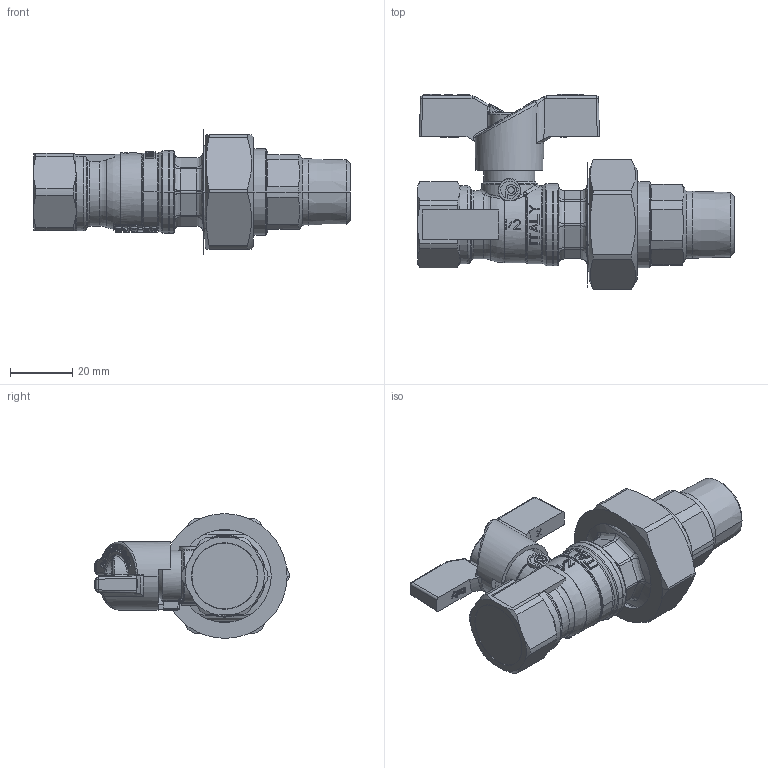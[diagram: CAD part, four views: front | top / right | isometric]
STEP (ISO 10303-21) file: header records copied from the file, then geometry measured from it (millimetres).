
FILE_DESCRIPTION((''),'2;1');
FILE_NAME('T204FU_1-2_MALE_UNION_ASM','2022-05-19T17:07:29',('Sergio.Dandrea'),(''),'CREO PARAMETRIC BY PTC INC, 2021164','CREO PARAMETRIC BY PTC INC, 2021164','');
FILE_SCHEMA(('CONFIG_CONTROL_DESIGN'));
Products named in the file (15): 11104; 11107; 12079; 11108; 11109; 12070; 87057; OR_107_AF0; OR_107_AF1; ASTA_T203FF_12_ASM; 89176; 88402; SEDE_PTFE_F12; 87131; T204FU_1-2_MALE_UNION_ASM
Assembly tree (15 placements, depth 3):
  T204FU_1-2_MALE_UNION_ASM
    11104
    11107
    12079
    11108
    11109
    12070
    ASTA_T203FF_12_ASM
      87057
      OR_107_AF0
      OR_107_AF1
    89176
    88402
    SEDE_PTFE_F12  x2
    87131
Bounding box: 101.9 x 62.9 x 40.14 mm (x, y, z)
Volume: 47848.7 mm3; surface area: 40024.4 mm2
Topology: 14 solids, 23 shells, 1778 faces, 4637 edges, 2983 vertices
Faces by surface type: extrusion 607, plane 557, cylinder 212, bspline 186, cone 100, torus 78, sphere 22, revolution 16
Entity records: 68351 total; most frequent: CARTESIAN_POINT 28131, ORIENTED_EDGE 9170, DIRECTION 6304, EDGE_CURVE 4607, VERTEX_POINT 2967, VECTOR 2634, B_SPLINE_CURVE_WITH_KNOTS 2376, LINE 2027
